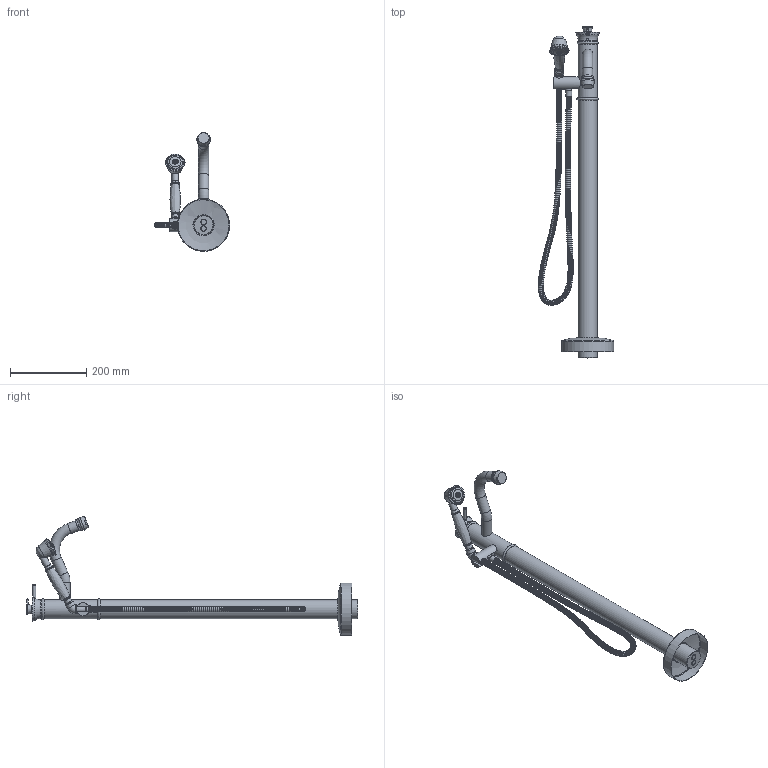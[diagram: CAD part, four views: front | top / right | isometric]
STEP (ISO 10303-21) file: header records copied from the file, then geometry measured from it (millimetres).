
FILE_DESCRIPTION(/* description */ (''),/* implementation_level */ '2;1');
FILE_NAME(/* name */ 'X:\Utilisateurs\Simon\AT39 3D.dwg.stp',/* time_stamp */ '2016-12-20T15:00:23-05:00',/* author */ ('simonb'),/* organization */ (''),/* preprocessor_version */ 'ST-DEVELOPER v15.6',/* originating_system */ 'Autodesk Inventor 2015',/* authorisation */ '');
FILE_SCHEMA (('AUTOMOTIVE_DESIGN { 1 0 10303 214 3 1 1 }'));
Length unit declared in the file: millimetre
Products named in the file (1): AT39 3D
Bounding box: 197.67 x 870.5 x 311.15 mm (x, y, z)
Volume: 2205129 mm3; surface area: 309802 mm2
Topology: 2 solids, 3 shells, 1056 faces, 1984 edges, 1372 vertices
Faces by surface type: plane 483, cylinder 464, torus 47, bspline 34, cone 28
Full cylindrical faces by diameter (mm): 5 x1, 5.3 x3, 5.334 x1, 8 x1, 12.065 x215, 13.589 x216, 15.7 x1, 17 x1, 17.526 x1, 18 x1, 22 x2, 22.606 x1, 23.5 x2, 27 x3, 34 x1, 50 x3, 135.8 x1, 137 x1
Entity records: 25690 total; most frequent: CARTESIAN_POINT 6081, DIRECTION 4189, ORIENTED_EDGE 2456, AXIS2_PLACEMENT_3D 2067, EDGE_LOOP 2017, EDGE_CURVE 1227, VERTEX_POINT 1131, STYLED_ITEM 1057
